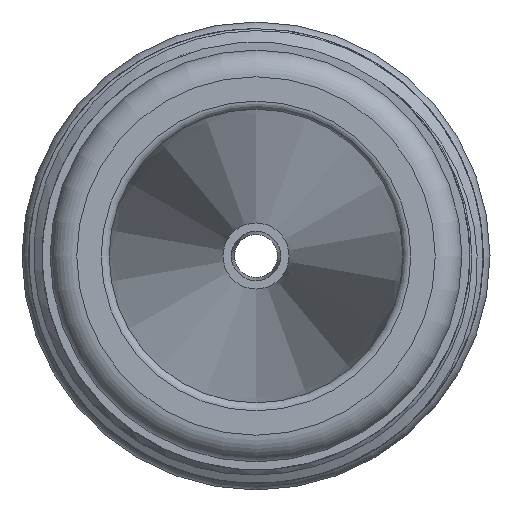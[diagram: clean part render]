
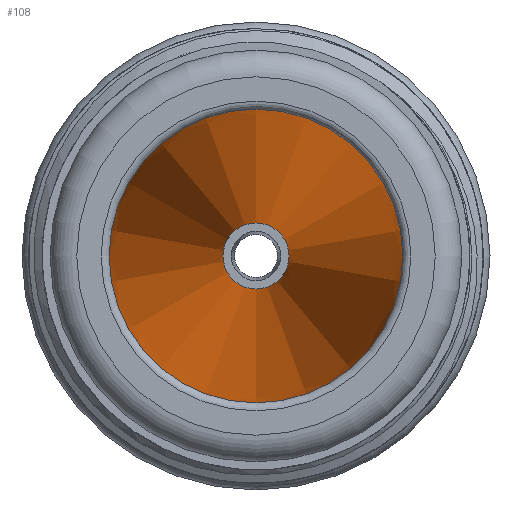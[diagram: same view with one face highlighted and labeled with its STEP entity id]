
A CAD part, left-side view. The second image highlights one B-rep face of the part: STEP entity #108.
In plain terms, the highlighted conical face has half-angle 1.998 degrees and reference radius 5.5 mm.
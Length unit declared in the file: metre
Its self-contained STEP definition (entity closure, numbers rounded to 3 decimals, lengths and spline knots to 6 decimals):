
#108 = ADVANCED_FACE( '', ( #272, #273 ), #274, .F. );
#272 = FACE_OUTER_BOUND( '', #1532, .T. );
#273 = FACE_BOUND( '', #1533, .T. );
#274 = CONICAL_SURFACE( '', #1534, 0.0055, 0.035 );
#1532 = EDGE_LOOP( '', ( #2031 ) );
#1533 = EDGE_LOOP( '', ( #2032 ) );
#1534 = AXIS2_PLACEMENT_3D( '', #2033, #2034, #2035 );
#2031 = ORIENTED_EDGE( '', *, *, #2498, .T. );
#2032 = ORIENTED_EDGE( '', *, *, #2562, .T. );
#2033 = CARTESIAN_POINT( '', ( -0.07595, 0., 0. ) );
#2034 = DIRECTION( '', ( -1., 0., 0. ) );
#2035 = DIRECTION( '', ( 0., 0., 1. ) );
#2498 = EDGE_CURVE( '', #2674, #2674, #2675, .F. );
#2562 = EDGE_CURVE( '', #2780, #2780, #2781, .F. );
#2674 = VERTEX_POINT( '', #2984 );
#2675 = CIRCLE( '', #2985, 0.00549 );
#2780 = VERTEX_POINT( '', #3796 );
#2781 = CIRCLE( '', #3797, 0.001236 );
#2984 = CARTESIAN_POINT( '', ( -0.07566, 0., -0.00549 ) );
#2985 = AXIS2_PLACEMENT_3D( '', #3999, #4000, #4001 );
#3796 = CARTESIAN_POINT( '', ( 0.04625, 0., 0.001236 ) );
#3797 = AXIS2_PLACEMENT_3D( '', #4096, #4097, #4098 );
#3999 = CARTESIAN_POINT( '', ( -0.07566, 0., 0. ) );
#4000 = DIRECTION( '', ( 1., 0., 0. ) );
#4001 = DIRECTION( '', ( 0., 0., -1. ) );
#4096 = CARTESIAN_POINT( '', ( 0.04625, 0., 0. ) );
#4097 = DIRECTION( '', ( -1., 0., 0. ) );
#4098 = DIRECTION( '', ( 0., 0., 1. ) );
